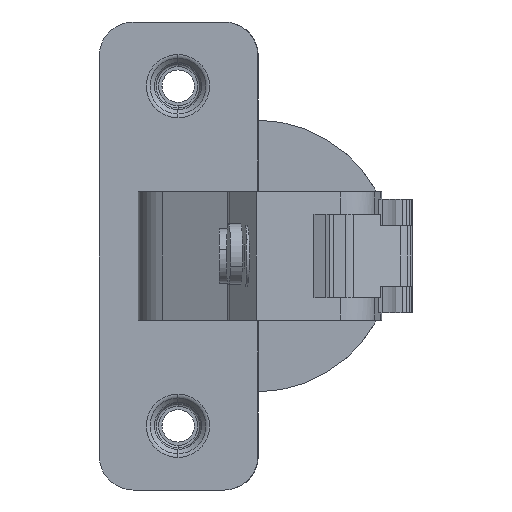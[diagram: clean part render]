
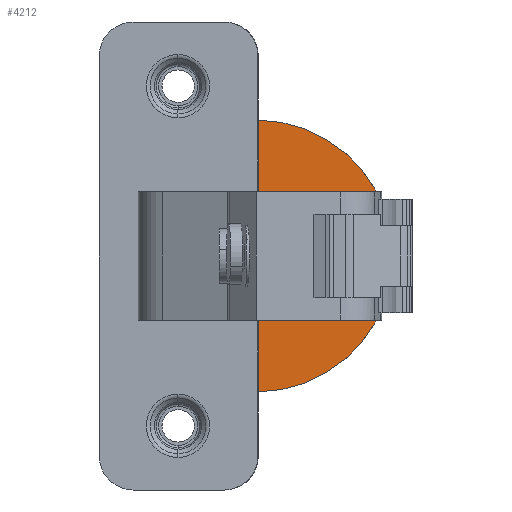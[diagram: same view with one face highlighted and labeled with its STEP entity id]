
A CAD part, left-side view. The second image highlights one B-rep face of the part: STEP entity #4212.
In plain terms, the highlighted planar face has unit normal (-1, 0.014, 0).
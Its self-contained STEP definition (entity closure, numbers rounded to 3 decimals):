
#47 = CARTESIAN_POINT ( 'NONE',  ( -4.177, -9.863, -8.893 ) ) ;
#58 = CARTESIAN_POINT ( 'NONE',  ( -3.956, 5.585, 0. ) ) ;
#73 = EDGE_LOOP ( 'NONE', ( #1607, #995, #7149, #6566, #5748, #2829, #4609, #5992, #5895, #4822, #3258, #2302 ) ) ;
#92 = CARTESIAN_POINT ( 'NONE',  ( -4.167, -9.175, -7.154 ) ) ;
#148 = VECTOR ( 'NONE', #1283, 1000. ) ;
#224 = EDGE_CURVE ( 'NONE', #7076, #6684, #7043, .T. ) ;
#260 = CARTESIAN_POINT ( 'NONE',  ( -3.956, 5.549, 17.998 ) ) ;
#364 = EDGE_CURVE ( 'NONE', #1197, #4930, #4417, .T. ) ;
#426 = ORIENTED_EDGE ( 'NONE', *, *, #5869, .F. ) ;
#444 = CARTESIAN_POINT ( 'NONE',  ( -3.953, 5.785, 0. ) ) ;
#483 = EDGE_CURVE ( 'NONE', #4930, #1320, #3315, .T. ) ;
#513 = AXIS2_PLACEMENT_3D ( 'NONE', #2350, #1211, #6932 ) ;
#514 = LINE ( 'NONE', #2245, #3344 ) ;
#519 = VERTEX_POINT ( 'NONE', #2957 ) ;
#529 = VECTOR ( 'NONE', #1561, 1000. ) ;
#572 = LINE ( 'NONE', #4558, #3689 ) ;
#627 = CARTESIAN_POINT ( 'NONE',  ( -3.953, 5.785, 0. ) ) ;
#656 = LINE ( 'NONE', #58, #148 ) ;
#657 = VECTOR ( 'NONE', #6235, 1000. ) ;
#686 = LINE ( 'NONE', #1144, #3080 ) ;
#995 = ORIENTED_EDGE ( 'NONE', *, *, #7277, .F. ) ;
#1068 = CARTESIAN_POINT ( 'NONE',  ( -3.957, 5.499, -5.55 ) ) ;
#1144 = CARTESIAN_POINT ( 'NONE',  ( -3.953, 5.785, -17.998 ) ) ;
#1152 = EDGE_CURVE ( 'NONE', #2961, #5821, #7160, .T. ) ;
#1179 = DIRECTION ( 'NONE',  ( 0.014, 1., 0. ) ) ;
#1184 = FACE_BOUND ( 'NONE', #3956, .T. ) ;
#1197 = VERTEX_POINT ( 'NONE', #3209 ) ;
#1211 = DIRECTION ( 'NONE',  ( 1., -0.014, 0. ) ) ;
#1283 = DIRECTION ( 'NONE',  ( 0., 0., 1. ) ) ;
#1302 = CARTESIAN_POINT ( 'NONE',  ( -3.957, 5.499, 5.55 ) ) ;
#1320 = VERTEX_POINT ( 'NONE', #3431 ) ;
#1349 = CARTESIAN_POINT ( 'NONE',  ( -3.973, 4.365, 5.55 ) ) ;
#1505 = DIRECTION ( 'NONE',  ( 0., 0., 1. ) ) ;
#1561 = DIRECTION ( 'NONE',  ( -0.014, -1., 0. ) ) ;
#1607 = ORIENTED_EDGE ( 'NONE', *, *, #364, .F. ) ;
#1616 = VERTEX_POINT ( 'NONE', #3241 ) ;
#1727 = VERTEX_POINT ( 'NONE', #260 ) ;
#1807 = EDGE_CURVE ( 'NONE', #519, #1727, #5984, .T. ) ;
#1863 = DIRECTION ( 'NONE',  ( -0.014, -1., 0. ) ) ;
#1874 = LINE ( 'NONE', #4232, #2887 ) ;
#1945 = DIRECTION ( 'NONE',  ( 0.014, 1., 0. ) ) ;
#2245 = CARTESIAN_POINT ( 'NONE',  ( -3.973, 4.365, 6.95 ) ) ;
#2281 = CARTESIAN_POINT ( 'NONE',  ( -4.167, -9.175, 7.154 ) ) ;
#2302 = ORIENTED_EDGE ( 'NONE', *, *, #483, .F. ) ;
#2350 = CARTESIAN_POINT ( 'NONE',  ( -4.162, -8.82, -8.3 ) ) ;
#2372 = VECTOR ( 'NONE', #4218, 1000. ) ;
#2428 = AXIS2_PLACEMENT_3D ( 'NONE', #627, #3433, #6304 ) ;
#2432 = AXIS2_PLACEMENT_3D ( 'NONE', #3894, #4368, #1505 ) ;
#2492 = CARTESIAN_POINT ( 'NONE',  ( -4.155, -8.297, -4.5 ) ) ;
#2494 = AXIS2_PLACEMENT_3D ( 'NONE', #6537, #3801, #6641 ) ;
#2614 = EDGE_CURVE ( 'NONE', #7076, #1727, #2787, .T. ) ;
#2787 = CIRCLE ( 'NONE', #2432, 18. ) ;
#2829 = ORIENTED_EDGE ( 'NONE', *, *, #224, .F. ) ;
#2887 = VECTOR ( 'NONE', #1945, 1000. ) ;
#2923 = ORIENTED_EDGE ( 'NONE', *, *, #5549, .T. ) ;
#2938 = CARTESIAN_POINT ( 'NONE',  ( -4.162, -8.82, 8.3 ) ) ;
#2949 = EDGE_CURVE ( 'NONE', #4664, #4040, #4696, .T. ) ;
#2957 = CARTESIAN_POINT ( 'NONE',  ( -3.956, 5.585, 17.998 ) ) ;
#2961 = VERTEX_POINT ( 'NONE', #3667 ) ;
#3080 = VECTOR ( 'NONE', #1179, 1000. ) ;
#3086 = LINE ( 'NONE', #6199, #657 ) ;
#3209 = CARTESIAN_POINT ( 'NONE',  ( -3.956, 5.585, -17.998 ) ) ;
#3241 = CARTESIAN_POINT ( 'NONE',  ( -4.155, -8.297, 4.5 ) ) ;
#3258 = ORIENTED_EDGE ( 'NONE', *, *, #6488, .F. ) ;
#3315 = LINE ( 'NONE', #1068, #4740 ) ;
#3320 = CARTESIAN_POINT ( 'NONE',  ( -4.127, -6.33, 4.5 ) ) ;
#3344 = VECTOR ( 'NONE', #3771, 1000. ) ;
#3362 = FACE_OUTER_BOUND ( 'NONE', #73, .T. ) ;
#3431 = CARTESIAN_POINT ( 'NONE',  ( -3.973, 4.365, -5.55 ) ) ;
#3433 = DIRECTION ( 'NONE',  ( -1., 0.014, 0. ) ) ;
#3491 = EDGE_CURVE ( 'NONE', #6684, #6599, #4026, .T. ) ;
#3544 = VERTEX_POINT ( 'NONE', #3320 ) ;
#3667 = CARTESIAN_POINT ( 'NONE',  ( -3.956, 5.549, -17.998 ) ) ;
#3689 = VECTOR ( 'NONE', #5691, 1000. ) ;
#3763 = CARTESIAN_POINT ( 'NONE',  ( -3.956, 5.585, 0. ) ) ;
#3771 = DIRECTION ( 'NONE',  ( 0., 0., 1. ) ) ;
#3801 = DIRECTION ( 'NONE',  ( 1., -0.014, 0. ) ) ;
#3894 = CARTESIAN_POINT ( 'NONE',  ( -3.953, 5.785, 0. ) ) ;
#3923 = VECTOR ( 'NONE', #4824, 1000. ) ;
#3956 = EDGE_LOOP ( 'NONE', ( #2923, #426, #6445, #4242 ) ) ;
#4026 = CIRCLE ( 'NONE', #2494, 17.4 ) ;
#4040 = VERTEX_POINT ( 'NONE', #4835 ) ;
#4212 = ADVANCED_FACE ( 'NONE', ( #3362, #1184 ), #6899, .T. ) ;
#4218 = DIRECTION ( 'NONE',  ( 0.014, 1., 0. ) ) ;
#4232 = CARTESIAN_POINT ( 'NONE',  ( -4.125, -6.197, -4.5 ) ) ;
#4238 = DIRECTION ( 'NONE',  ( 1., -0.014, 0. ) ) ;
#4242 = ORIENTED_EDGE ( 'NONE', *, *, #4987, .F. ) ;
#4293 = EDGE_CURVE ( 'NONE', #3544, #1616, #3086, .T. ) ;
#4368 = DIRECTION ( 'NONE',  ( -1., 0.014, 0. ) ) ;
#4417 = LINE ( 'NONE', #3763, #3923 ) ;
#4558 = CARTESIAN_POINT ( 'NONE',  ( -4.127, -6.33, -5.75 ) ) ;
#4609 = ORIENTED_EDGE ( 'NONE', *, *, #2614, .T. ) ;
#4664 = VERTEX_POINT ( 'NONE', #1349 ) ;
#4696 = LINE ( 'NONE', #1302, #2372 ) ;
#4740 = VECTOR ( 'NONE', #1863, 1000. ) ;
#4822 = ORIENTED_EDGE ( 'NONE', *, *, #2949, .F. ) ;
#4824 = DIRECTION ( 'NONE',  ( 0., 0., 1. ) ) ;
#4835 = CARTESIAN_POINT ( 'NONE',  ( -3.956, 5.585, 5.55 ) ) ;
#4930 = VERTEX_POINT ( 'NONE', #4996 ) ;
#4941 = DIRECTION ( 'NONE',  ( 0., 0., 1. ) ) ;
#4987 = EDGE_CURVE ( 'NONE', #5570, #1616, #6733, .T. ) ;
#4996 = CARTESIAN_POINT ( 'NONE',  ( -3.956, 5.585, -5.55 ) ) ;
#5024 = VECTOR ( 'NONE', #6173, 1000. ) ;
#5187 = DIRECTION ( 'NONE',  ( 0., 0., -1. ) ) ;
#5521 = DIRECTION ( 'NONE',  ( -1., 0.014, 0. ) ) ;
#5532 = CARTESIAN_POINT ( 'NONE',  ( -4.127, -6.33, -4.5 ) ) ;
#5549 = EDGE_CURVE ( 'NONE', #5570, #6061, #1874, .T. ) ;
#5570 = VERTEX_POINT ( 'NONE', #2492 ) ;
#5645 = CARTESIAN_POINT ( 'NONE',  ( -4.155, -8.297, -5.75 ) ) ;
#5690 = CIRCLE ( 'NONE', #513, 1.2 ) ;
#5691 = DIRECTION ( 'NONE',  ( 0., 0., -1. ) ) ;
#5726 = AXIS2_PLACEMENT_3D ( 'NONE', #2938, #4238, #5187 ) ;
#5748 = ORIENTED_EDGE ( 'NONE', *, *, #3491, .F. ) ;
#5821 = VERTEX_POINT ( 'NONE', #47 ) ;
#5869 = EDGE_CURVE ( 'NONE', #3544, #6061, #572, .T. ) ;
#5895 = ORIENTED_EDGE ( 'NONE', *, *, #6579, .F. ) ;
#5984 = LINE ( 'NONE', #6649, #529 ) ;
#5992 = ORIENTED_EDGE ( 'NONE', *, *, #1807, .F. ) ;
#6061 = VERTEX_POINT ( 'NONE', #5532 ) ;
#6173 = DIRECTION ( 'NONE',  ( 0., 0., 1. ) ) ;
#6199 = CARTESIAN_POINT ( 'NONE',  ( -4.125, -6.197, 4.5 ) ) ;
#6203 = AXIS2_PLACEMENT_3D ( 'NONE', #444, #5521, #4941 ) ;
#6235 = DIRECTION ( 'NONE',  ( -0.014, -1., 0. ) ) ;
#6290 = CARTESIAN_POINT ( 'NONE',  ( -4.177, -9.863, 8.893 ) ) ;
#6304 = DIRECTION ( 'NONE',  ( 0., 0., 1. ) ) ;
#6445 = ORIENTED_EDGE ( 'NONE', *, *, #4293, .T. ) ;
#6488 = EDGE_CURVE ( 'NONE', #1320, #4664, #514, .T. ) ;
#6537 = CARTESIAN_POINT ( 'NONE',  ( -3.94, 6.685, 0. ) ) ;
#6566 = ORIENTED_EDGE ( 'NONE', *, *, #6613, .F. ) ;
#6579 = EDGE_CURVE ( 'NONE', #4040, #519, #656, .T. ) ;
#6599 = VERTEX_POINT ( 'NONE', #92 ) ;
#6613 = EDGE_CURVE ( 'NONE', #6599, #5821, #5690, .T. ) ;
#6641 = DIRECTION ( 'NONE',  ( -0.014, -1., 0. ) ) ;
#6649 = CARTESIAN_POINT ( 'NONE',  ( -3.953, 5.785, 17.998 ) ) ;
#6684 = VERTEX_POINT ( 'NONE', #2281 ) ;
#6733 = LINE ( 'NONE', #5645, #5024 ) ;
#6899 = PLANE ( 'NONE',  #2428 ) ;
#6932 = DIRECTION ( 'NONE',  ( 0., 0., 1. ) ) ;
#7043 = CIRCLE ( 'NONE', #5726, 1.2 ) ;
#7076 = VERTEX_POINT ( 'NONE', #6290 ) ;
#7149 = ORIENTED_EDGE ( 'NONE', *, *, #1152, .T. ) ;
#7160 = CIRCLE ( 'NONE', #6203, 18. ) ;
#7277 = EDGE_CURVE ( 'NONE', #2961, #1197, #686, .T. ) ;
